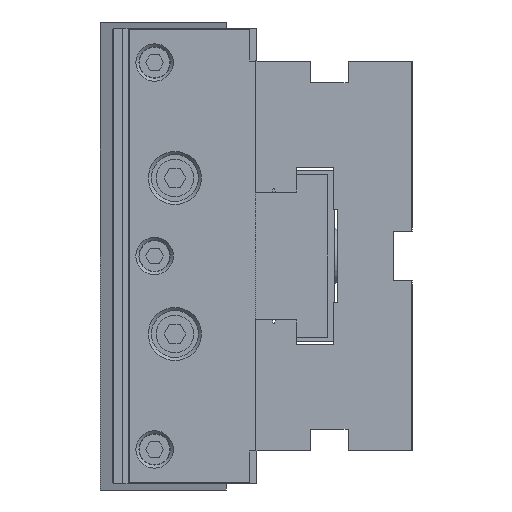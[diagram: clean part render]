
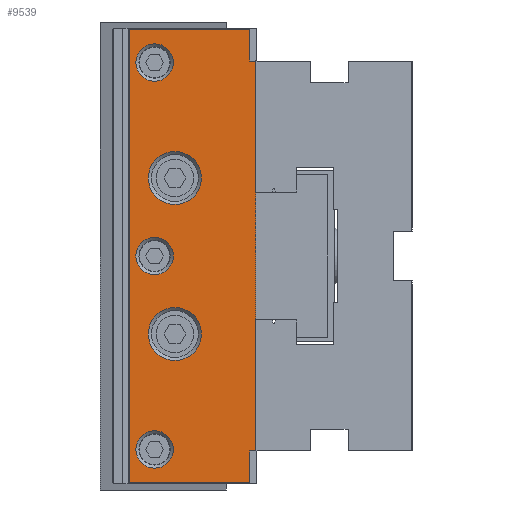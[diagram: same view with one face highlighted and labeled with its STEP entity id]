
A CAD part, left-side view. The second image highlights one B-rep face of the part: STEP entity #9539.
In plain terms, the highlighted planar face has unit normal (-1, 0, 0).
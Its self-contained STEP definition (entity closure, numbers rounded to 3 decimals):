
#320=FACE_BOUND('',#1611,.T.);
#321=FACE_BOUND('',#1612,.T.);
#322=FACE_BOUND('',#1613,.T.);
#323=FACE_BOUND('',#1614,.T.);
#324=FACE_BOUND('',#1615,.T.);
#483=PLANE('',#10293);
#1034=FACE_OUTER_BOUND('',#1610,.T.);
#1610=EDGE_LOOP('',(#7491,#7492,#7493,#7494,#7495,#7496,#7497,#7498));
#1611=EDGE_LOOP('',(#7499));
#1612=EDGE_LOOP('',(#7500));
#1613=EDGE_LOOP('',(#7501));
#1614=EDGE_LOOP('',(#7502));
#1615=EDGE_LOOP('',(#7503));
#2397=LINE('',#14359,#3485);
#2398=LINE('',#14361,#3486);
#2399=LINE('',#14363,#3487);
#2400=LINE('',#14365,#3488);
#2401=LINE('',#14367,#3489);
#2402=LINE('',#14369,#3490);
#2403=LINE('',#14371,#3491);
#2404=LINE('',#14372,#3492);
#3485=VECTOR('',#11672,10.);
#3486=VECTOR('',#11673,10.);
#3487=VECTOR('',#11674,10.);
#3488=VECTOR('',#11675,10.);
#3489=VECTOR('',#11676,10.);
#3490=VECTOR('',#11677,10.);
#3491=VECTOR('',#11678,10.);
#3492=VECTOR('',#11679,10.);
#4312=CIRCLE('',#10290,6.);
#4315=CIRCLE('',#10294,8.5);
#4316=CIRCLE('',#10295,6.);
#4317=CIRCLE('',#10296,8.5);
#4318=CIRCLE('',#10297,6.);
#4725=VERTEX_POINT('',#14349);
#4728=VERTEX_POINT('',#14357);
#4729=VERTEX_POINT('',#14358);
#4730=VERTEX_POINT('',#14360);
#4731=VERTEX_POINT('',#14362);
#4732=VERTEX_POINT('',#14364);
#4733=VERTEX_POINT('',#14366);
#4734=VERTEX_POINT('',#14368);
#4735=VERTEX_POINT('',#14370);
#4736=VERTEX_POINT('',#14373);
#4737=VERTEX_POINT('',#14375);
#4738=VERTEX_POINT('',#14377);
#4739=VERTEX_POINT('',#14379);
#5745=EDGE_CURVE('',#4725,#4725,#4312,.T.);
#5749=EDGE_CURVE('',#4728,#4729,#2397,.T.);
#5750=EDGE_CURVE('',#4729,#4730,#2398,.T.);
#5751=EDGE_CURVE('',#4730,#4731,#2399,.T.);
#5752=EDGE_CURVE('',#4731,#4732,#2400,.T.);
#5753=EDGE_CURVE('',#4732,#4733,#2401,.T.);
#5754=EDGE_CURVE('',#4734,#4733,#2402,.T.);
#5755=EDGE_CURVE('',#4735,#4734,#2403,.T.);
#5756=EDGE_CURVE('',#4728,#4735,#2404,.T.);
#5757=EDGE_CURVE('',#4736,#4736,#4315,.T.);
#5758=EDGE_CURVE('',#4737,#4737,#4316,.T.);
#5759=EDGE_CURVE('',#4738,#4738,#4317,.T.);
#5760=EDGE_CURVE('',#4739,#4739,#4318,.T.);
#7491=ORIENTED_EDGE('',*,*,#5749,.T.);
#7492=ORIENTED_EDGE('',*,*,#5750,.T.);
#7493=ORIENTED_EDGE('',*,*,#5751,.T.);
#7494=ORIENTED_EDGE('',*,*,#5752,.T.);
#7495=ORIENTED_EDGE('',*,*,#5753,.T.);
#7496=ORIENTED_EDGE('',*,*,#5754,.F.);
#7497=ORIENTED_EDGE('',*,*,#5755,.F.);
#7498=ORIENTED_EDGE('',*,*,#5756,.F.);
#7499=ORIENTED_EDGE('',*,*,#5757,.F.);
#7500=ORIENTED_EDGE('',*,*,#5758,.F.);
#7501=ORIENTED_EDGE('',*,*,#5759,.F.);
#7502=ORIENTED_EDGE('',*,*,#5760,.F.);
#7503=ORIENTED_EDGE('',*,*,#5745,.F.);
#9539=ADVANCED_FACE('',(#1034,#320,#321,#322,#323,#324),#483,.T.);
#10290=AXIS2_PLACEMENT_3D('',#14350,#11663,#11664);
#10293=AXIS2_PLACEMENT_3D('',#14356,#11670,#11671);
#10294=AXIS2_PLACEMENT_3D('',#14374,#11680,#11681);
#10295=AXIS2_PLACEMENT_3D('',#14376,#11682,#11683);
#10296=AXIS2_PLACEMENT_3D('',#14378,#11684,#11685);
#10297=AXIS2_PLACEMENT_3D('',#14380,#11686,#11687);
#11663=DIRECTION('center_axis',(-1.,0.,0.));
#11664=DIRECTION('ref_axis',(0.,0.,-1.));
#11670=DIRECTION('center_axis',(-1.,0.,0.));
#11671=DIRECTION('ref_axis',(0.,0.,1.));
#11672=DIRECTION('',(0.,0.,1.));
#11673=DIRECTION('',(0.,-1.,0.));
#11674=DIRECTION('',(0.,0.,1.));
#11675=DIRECTION('',(0.,1.,0.));
#11676=DIRECTION('',(0.,0.,1.));
#11677=DIRECTION('',(0.,-1.,0.));
#11678=DIRECTION('',(0.,0.,1.));
#11679=DIRECTION('',(0.,1.,0.));
#11680=DIRECTION('center_axis',(-1.,0.,0.));
#11681=DIRECTION('ref_axis',(0.,0.,-1.));
#11682=DIRECTION('center_axis',(-1.,0.,0.));
#11683=DIRECTION('ref_axis',(0.,0.,-1.));
#11684=DIRECTION('center_axis',(-1.,0.,0.));
#11685=DIRECTION('ref_axis',(0.,0.,-1.));
#11686=DIRECTION('center_axis',(-1.,0.,0.));
#11687=DIRECTION('ref_axis',(0.,0.,-1.));
#14349=CARTESIAN_POINT('',(-210.,82.5,-56.));
#14350=CARTESIAN_POINT('Origin',(-210.,82.5,-62.));
#14356=CARTESIAN_POINT('Origin',(-210.,50.,-73.));
#14357=CARTESIAN_POINT('',(-210.,52.,-72.6));
#14358=CARTESIAN_POINT('',(-210.,52.,-62.5));
#14359=CARTESIAN_POINT('',(-210.,52.,-70.375));
#14360=CARTESIAN_POINT('',(-210.,50.,-62.5));
#14361=CARTESIAN_POINT('',(-210.,50.,-62.5));
#14362=CARTESIAN_POINT('',(-210.,50.,62.5));
#14363=CARTESIAN_POINT('',(-210.,50.,-73.));
#14364=CARTESIAN_POINT('',(-210.,52.,62.5));
#14365=CARTESIAN_POINT('',(-210.,50.,62.5));
#14366=CARTESIAN_POINT('',(-210.,52.,72.6));
#14367=CARTESIAN_POINT('',(-210.,52.,-2.625));
#14368=CARTESIAN_POINT('',(-210.,90.6,72.6));
#14369=CARTESIAN_POINT('',(-210.,50.,72.6));
#14370=CARTESIAN_POINT('',(-210.,90.6,-72.6));
#14371=CARTESIAN_POINT('',(-210.,90.6,0.));
#14372=CARTESIAN_POINT('',(-210.,50.,-72.6));
#14373=CARTESIAN_POINT('',(-210.,76.,-16.5));
#14374=CARTESIAN_POINT('Origin',(-210.,76.,-25.));
#14375=CARTESIAN_POINT('',(-210.,82.5,6.));
#14376=CARTESIAN_POINT('Origin',(-210.,82.5,0.));
#14377=CARTESIAN_POINT('',(-210.,76.,33.5));
#14378=CARTESIAN_POINT('Origin',(-210.,76.,25.));
#14379=CARTESIAN_POINT('',(-210.,82.5,68.));
#14380=CARTESIAN_POINT('Origin',(-210.,82.5,62.));
